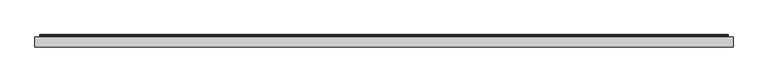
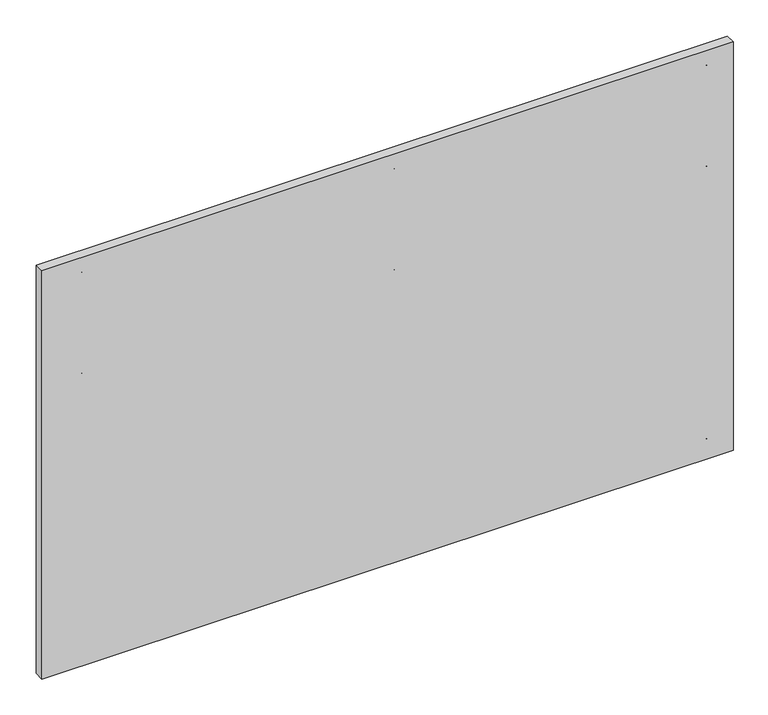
"""IFC4 building model written with IfcOpenShell, lengths in millimetres: furniture geometry, Geiger_GeigerOneCasegoods_WallTileTopTileorWallMountedFabric : RR Fabric 72Wx 1.25Dx 45H 2.5 yds."""

import ifcopenshell
import ifcopenshell.guid

model = None  # the IFC model being written
_history = None  # IfcOwnerHistory: only IFC2X3 demands one
_inside = {}  # id of a spatial element -> (the spatial element, [elements in it])
_under = {}  # id of a project, library or spatial element -> (it, [spatial elements below it])
_declared = {}  # id of a project -> (the project, [libraries it declares])
_typed = {}  # id of a type object -> (the type object, [elements of that type])
_made_of = {}  # id of a material, layer set ... -> (it, [elements and type objects made of it])


def new_model(schema):
    """Start an empty IFC model of exactly this schema.

    Asked for "IFC4X3", IfcOpenShell would pick the latest addendum, in which some entities
    have other attributes; the version numbers below select the first issue.
    IFC2X3 requires an IfcOwnerHistory on every rooted entity: one is made here for all.
    """
    global model, _history
    if schema == "IFC4X3":
        model = ifcopenshell.file(schema_version=(4, 3, 0, 0))
    else:
        model = ifcopenshell.file(schema=schema)
    _inside.clear()
    _under.clear()
    _declared.clear()
    _typed.clear()
    _made_of.clear()
    _history = None
    if model.schema == "IFC2X3":
        org = make("IfcOrganization", Name="unknown")
        user = make(
            "IfcPersonAndOrganization",
            ThePerson=make("IfcPerson", FamilyName="unknown"),
            TheOrganization=org,
        )
        app = make(
            "IfcApplication",
            ApplicationDeveloper=org,
            Version="unknown",
            ApplicationFullName="unknown",
            ApplicationIdentifier="unknown",
        )
        _history = make(
            "IfcOwnerHistory",
            OwningUser=user,
            OwningApplication=app,
            ChangeAction="ADDED",
            CreationDate=0,
        )
    return model


def make(cls, **values):
    """One entity of the class cls with the attributes given. An attribute that is None is left unset."""
    return model.create_entity(
        cls, **{name: value for name, value in values.items() if value is not None}
    )


def rooted(cls, **values):
    """An entity with a GlobalId (a new one), such as an element, a storey or a relation."""
    return make(cls, GlobalId=ifcopenshell.guid.new(), OwnerHistory=_history, **values)


def si_unit(unit_type, name, prefix=None):
    """IfcSIUnit, for example si_unit("LENGTHUNIT", "METRE", prefix="MILLI")."""
    return make("IfcSIUnit", UnitType=unit_type, Prefix=prefix, Name=name)


def assignment(units):
    """IfcUnitAssignment: the units of a project."""
    return None if units is None else make("IfcUnitAssignment", Units=units)


def point(xyz):
    """IfcCartesianPoint."""
    return None if xyz is None else make("IfcCartesianPoint", Coordinates=xyz)


def direction(xyz):
    """IfcDirection."""
    return None if xyz is None else make("IfcDirection", DirectionRatios=xyz)


def frame(location, z_axis=None, x_axis=None):
    """IfcAxis2Placement3D, a coordinate frame: its origin and axes. An axis left out is left unset."""
    return make(
        "IfcAxis2Placement3D",
        Location=point(location),
        Axis=direction(z_axis),
        RefDirection=direction(x_axis),
    )


def frame_2d(location, x_axis=None):
    """IfcAxis2Placement2D, a coordinate frame in the plane: its origin and x axis."""
    return make(
        "IfcAxis2Placement2D", Location=point(location), RefDirection=direction(x_axis)
    )


def origin():
    """The frame at (0, 0, 0) with its axes left unset."""
    return frame((0.0, 0.0, 0.0))


def origin_with_axes():
    """The frame at (0, 0, 0) with the z axis (0, 0, 1) and the x axis (1, 0, 0) written out."""
    return frame((0.0, 0.0, 0.0), z_axis=(0.0, 0.0, 1.0), x_axis=(1.0, 0.0, 0.0))


def place(relative_to, where):
    """IfcLocalPlacement: puts the frame where relative to a parent placement (None: the world)."""
    return make(
        "IfcLocalPlacement", PlacementRelTo=relative_to, RelativePlacement=where
    )


def context(
    kind, dimensions, precision=None, world=None, true_north=None, identifier=None
):
    """IfcGeometricRepresentationContext, for example the 3D "Model" context."""
    return make(
        "IfcGeometricRepresentationContext",
        ContextIdentifier=identifier,
        ContextType=kind,
        CoordinateSpaceDimension=dimensions,
        Precision=precision,
        WorldCoordinateSystem=world,
        TrueNorth=true_north,
    )


def project(units=None, contexts=None):
    """IfcProject with its units and contexts."""
    return rooted(
        "IfcProject",
        Name="project",
        RepresentationContexts=contexts,
        UnitsInContext=assignment(units),
    )


def spatial(cls, under=None, at=None, **own):
    """A site, building, storey or space (cls), placed at a placement, below another one or the project."""
    s = rooted(cls, ObjectPlacement=at, **own)
    if under is not None:
        _under.setdefault(under.id(), (under, []))[1].append(s)
    return s


def polyline(points):
    """IfcPolyline through the points."""
    return make("IfcPolyline", Points=[point(p) for p in points])


def circle_curve(where, radius):
    """IfcCircle in the frame where."""
    return make("IfcCircle", Position=where, Radius=radius)


def trimmed(basis, trim1, trim2, sense, master):
    """IfcTrimmedCurve: the piece of a basis curve between two trims."""
    return make(
        "IfcTrimmedCurve",
        BasisCurve=basis,
        Trim1=trim1,
        Trim2=trim2,
        SenseAgreement=sense,
        MasterRepresentation=master,
    )


def segment(curve, same_sense, transition):
    """IfcCompositeCurveSegment."""
    return make(
        "IfcCompositeCurveSegment",
        Transition=transition,
        SameSense=same_sense,
        ParentCurve=curve,
    )


def composite_curve(segments, self_intersect=None):
    """IfcCompositeCurve: segments joined end to end."""
    return make("IfcCompositeCurve", Segments=segments, SelfIntersect=self_intersect)


def outline(outer, holes=None, kind="AREA"):
    """IfcArbitraryClosedProfileDef: a profile drawn as a closed curve; with holes, ...WithVoids."""
    if holes is None:
        return make("IfcArbitraryClosedProfileDef", ProfileType=kind, OuterCurve=outer)
    return make(
        "IfcArbitraryProfileDefWithVoids",
        ProfileType=kind,
        OuterCurve=outer,
        InnerCurves=holes,
    )


def extrude(swept, where, along, depth):
    """IfcExtrudedAreaSolid: the profile swept, set in the frame where, extruded along a direction by depth."""
    return make(
        "IfcExtrudedAreaSolid",
        SweptArea=swept,
        Position=where,
        ExtrudedDirection=direction(along),
        Depth=depth,
    )


def shape(context_of_items, identifier, shape_type, items):
    """IfcShapeRepresentation: the items that make up one representation, for example the "Body"."""
    return make(
        "IfcShapeRepresentation",
        ContextOfItems=context_of_items,
        RepresentationIdentifier=identifier,
        RepresentationType=shape_type,
        Items=items,
    )


def source(mapping_origin, context_of_items, identifier, shape_type, items):
    """IfcRepresentationMap: a shape defined once, which mapped items show again and again."""
    return make(
        "IfcRepresentationMap",
        MappingOrigin=mapping_origin,
        MappedRepresentation=shape(context_of_items, identifier, shape_type, items),
    )


def transform(
    local_origin,
    x_axis=None,
    y_axis=None,
    z_axis=None,
    scale=None,
    scale2=None,
    scale3=None,
    uniform=True,
):
    """IfcCartesianTransformationOperator3D, or its non-uniform kind. x_axis, y_axis, z_axis: its Axis1, 2, 3."""
    if uniform:
        return make(
            "IfcCartesianTransformationOperator3D",
            Axis1=direction(x_axis),
            Axis2=direction(y_axis),
            LocalOrigin=point(local_origin),
            Scale=scale,
            Axis3=direction(z_axis),
        )
    return make(
        "IfcCartesianTransformationOperator3DnonUniform",
        Axis1=direction(x_axis),
        Axis2=direction(y_axis),
        LocalOrigin=point(local_origin),
        Scale=scale,
        Axis3=direction(z_axis),
        Scale2=scale2,
        Scale3=scale3,
    )


def mapped(mapping_source, mapping_target):
    """IfcMappedItem: shows the shape of a source again, moved by a transform."""
    return make(
        "IfcMappedItem", MappingSource=mapping_source, MappingTarget=mapping_target
    )


def made_of(thing, what):
    """Note that an element or type object is made of a material, layer set ...; save() writes the relation."""
    if what is not None:
        _made_of.setdefault(what.id(), (what, []))[1].append(thing)
    return thing


def element(
    cls,
    number,
    at=None,
    inside=None,
    cuts=None,
    type_object=None,
    material=None,
    context=None,
    identifier="Body",
    shape_type=None,
    held_by="IfcProductDefinitionShape",
    body=None,
    shapes=None,
    **own,
):
    """One element of the class cls, such as IfcWall. Its Tag is "e" and its number.

    at: its placement. inside: the storey or other place that contains it. cuts: it is an
    opening in that element (IfcRelVoidsElement). A single representation is given by context,
    identifier, shape_type and body (its items); several are given by shapes. held_by: the class
    of the entity that holds the representations. save() writes the other relations.
    """
    e = rooted(cls, Tag="e%d" % number, ObjectPlacement=at, **own)
    if body is not None:
        shapes = [shape(context, identifier, shape_type, body)]
    if shapes is not None:
        e.Representation = make(held_by, Representations=shapes)
    if inside is not None:
        _inside.setdefault(inside.id(), (inside, []))[1].append(e)
    if cuts is not None:
        rooted(
            "IfcRelVoidsElement", RelatingBuildingElement=cuts, RelatedOpeningElement=e
        )
    if type_object is not None:
        _typed.setdefault(type_object.id(), (type_object, []))[1].append(e)
    return made_of(e, material)


def aggregate(whole, parts):
    """IfcRelAggregates: a whole, such as a stair, and the parts it consists of."""
    return rooted("IfcRelAggregates", RelatingObject=whole, RelatedObjects=parts)


def save(model, path):
    """Write the relations noted so far, then the file.

    IfcRelAggregates (storeys below a building ...), IfcRelContainedInSpatialStructure (elements
    in a storey), IfcRelDefinesByType, IfcRelAssociatesMaterial and IfcRelDeclares: one each for
    every whole, place, type object, material and project.
    """
    for whole, parts in _under.values():
        aggregate(whole, parts)
    for where, things in _inside.values():
        rooted(
            "IfcRelContainedInSpatialStructure",
            RelatedElements=things,
            RelatingStructure=where,
        )
    for kind, things in _typed.values():
        rooted("IfcRelDefinesByType", RelatedObjects=things, RelatingType=kind)
    for what, things in _made_of.values():
        rooted("IfcRelAssociatesMaterial", RelatedObjects=things, RelatingMaterial=what)
    for by, libraries in _declared.values():
        rooted("IfcRelDeclares", RelatingContext=by, RelatedDefinitions=libraries)
    model.write(path)


def furniture_38d5736b(model_context):
    return source(origin(), model_context, "Body", "SweptSolid", [
        extrude(outline(composite_curve([segment(polyline([(3.5052, 32.2904), (3.5052, 39.2246), (2.6924, 40.012), (0.7874, 40.012), (0.0, 40.8248), (0.0, 72.524), (1.2954, 72.524), (2.8956, 70.9238), (2.8956, 46.3366), (3.7084, 45.5238), (5.588, 45.5238), (6.4008, 44.7364), (6.4008, 31.3252)]), True, "CONTINUOUS"), segment(trimmed(circle_curve(frame_2d((5.5973579, 31.3345579)), 0.8034966), [point((6.4008, 31.3252))], [point((5.0292, 30.7664))], False, "CARTESIAN"), True, "CONTINUOUS"), segment(polyline([(5.0292, 30.7664), (3.5052, 32.2904)]), True, "CONTINUOUS")], self_intersect=False)), frame((876.4, 0.0, 0.0), z_axis=(1.0, 0.0, 0.0), x_axis=(0.0, 1.0, 0.0)), (0.0, 0.0, 1.0), 76.0),
        extrude(outline(composite_curve([segment(polyline([(3.5052, 794.2834), (3.5052, 801.2176), (2.6924, 802.005), (0.7874, 802.005), (0.0, 802.8178), (0.0, 834.517), (1.2954, 834.517), (2.8956, 832.9168), (2.8956, 808.3296), (3.7084, 807.5168), (5.588, 807.5168), (6.4008, 806.7294), (6.4008, 793.3182)]), True, "CONTINUOUS"), segment(trimmed(circle_curve(frame_2d((5.5973579, 793.3275579)), 0.8034966), [point((6.4008, 793.3182))], [point((5.0292, 792.7594))], False, "CARTESIAN"), True, "CONTINUOUS"), segment(polyline([(5.0292, 792.7594), (3.5052, 794.2834)]), True, "CONTINUOUS")], self_intersect=False)), frame((876.4, 0.0, 0.0), z_axis=(1.0, 0.0, 0.0), x_axis=(0.0, 1.0, 0.0)), (0.0, 0.0, 1.0), 76.0),
        extrude(outline(composite_curve([segment(polyline([(3.5052, 1076.7864), (3.5052, 1083.7206), (2.6924, 1084.508), (0.7874, 1084.508), (0.0, 1085.3208), (0.0, 1117.02), (1.2954, 1117.02), (2.8956, 1115.4198), (2.8956, 1090.8326), (3.7084, 1090.0198), (5.588, 1090.0198), (6.4008, 1089.2324), (6.4008, 1075.8212)]), True, "CONTINUOUS"), segment(trimmed(circle_curve(frame_2d((5.5973579, 1075.8305579)), 0.8034966), [point((6.4008, 1075.8212))], [point((5.0292, 1075.2624))], False, "CARTESIAN"), True, "CONTINUOUS"), segment(polyline([(5.0292, 1075.2624), (3.5052, 1076.7864)]), True, "CONTINUOUS")], self_intersect=False)), frame((876.4, 0.0, 0.0), z_axis=(1.0, 0.0, 0.0), x_axis=(0.0, 1.0, 0.0)), (0.0, 0.0, 1.0), 76.0),
        extrude(outline(composite_curve([segment(polyline([(3.5052, 32.2904), (3.5052, 39.2246), (2.6924, 40.012), (0.7874, 40.012), (0.0, 40.8248), (0.0, 72.524), (1.2954, 72.524), (2.8956, 70.9238), (2.8956, 46.3366), (3.7084, 45.5238), (5.588, 45.5238), (6.4008, 44.7364), (6.4008, 31.3252)]), True, "CONTINUOUS"), segment(trimmed(circle_curve(frame_2d((5.5973579, 31.3345579)), 0.8034966), [point((6.4008, 31.3252))], [point((5.0292, 30.7664))], False, "CARTESIAN"), True, "CONTINUOUS"), segment(polyline([(5.0292, 30.7664), (3.5052, 32.2904)]), True, "CONTINUOUS")], self_intersect=False)), frame((876.4, 0.0, 0.0), z_axis=(1.0, 0.0, 0.0), x_axis=(0.0, 1.0, 0.0)), (0.0, 0.0, 1.0), 76.0),
        extrude(outline(composite_curve([segment(polyline([(3.5052, 794.2834), (3.5052, 801.2176), (2.6924, 802.005), (0.7874, 802.005), (0.0, 802.8178), (0.0, 834.517), (1.2954, 834.517), (2.8956, 832.9168), (2.8956, 808.3296), (3.7084, 807.5168), (5.588, 807.5168), (6.4008, 806.7294), (6.4008, 793.3182)]), True, "CONTINUOUS"), segment(trimmed(circle_curve(frame_2d((5.5973579, 793.3275579)), 0.8034966), [point((6.4008, 793.3182))], [point((5.0292, 792.7594))], False, "CARTESIAN"), True, "CONTINUOUS"), segment(polyline([(5.0292, 792.7594), (3.5052, 794.2834)]), True, "CONTINUOUS")], self_intersect=False)), frame((876.4, 0.0, 0.0), z_axis=(1.0, 0.0, 0.0), x_axis=(0.0, 1.0, 0.0)), (0.0, 0.0, 1.0), 76.0),
        extrude(outline(composite_curve([segment(polyline([(3.5052, 1076.7864), (3.5052, 1083.7206), (2.6924, 1084.508), (0.7874, 1084.508), (0.0, 1085.3208), (0.0, 1117.02), (1.2954, 1117.02), (2.8956, 1115.4198), (2.8956, 1090.8326), (3.7084, 1090.0198), (5.588, 1090.0198), (6.4008, 1089.2324), (6.4008, 1075.8212)]), True, "CONTINUOUS"), segment(trimmed(circle_curve(frame_2d((5.5973579, 1075.8305579)), 0.8034966), [point((6.4008, 1075.8212))], [point((5.0292, 1075.2624))], False, "CARTESIAN"), True, "CONTINUOUS"), segment(polyline([(5.0292, 1075.2624), (3.5052, 1076.7864)]), True, "CONTINUOUS")], self_intersect=False)), frame((876.4, 0.0, 0.0), z_axis=(1.0, 0.0, 0.0), x_axis=(0.0, 1.0, 0.0)), (0.0, 0.0, 1.0), 76.0),
        extrude(outline(composite_curve([segment(polyline([(2.8948, 38.2316), (2.8948, 31.2974), (3.7076, 30.51), (5.6126, 30.51), (6.4, 29.6972), (6.4, -2.002), (5.1046, -2.002), (3.5044, -0.4018), (3.5044, 24.1854), (2.6916, 24.9982), (0.812, 24.9982), (-0.0008, 25.7856), (-0.0008, 39.1968)]), True, "CONTINUOUS"), segment(trimmed(circle_curve(frame_2d((0.8026421, 39.1874421)), 0.8034966), [point((-0.0008, 39.1968))], [point((1.3708, 39.7556))], False, "CARTESIAN"), True, "CONTINUOUS"), segment(polyline([(1.3708, 39.7556), (2.8948, 38.2316)]), True, "CONTINUOUS")], self_intersect=False)), frame((12.5, 0.0, 0.0), z_axis=(1.0, 0.0, 0.0), x_axis=(0.0, 1.0, 0.0)), (0.0, 0.0, 1.0), 1803.8),
        extrude(outline(composite_curve([segment(polyline([(3.5052, 32.2904), (3.5052, 39.2246), (2.6924, 40.012), (0.7874, 40.012), (0.0, 40.8248), (0.0, 72.524), (1.2954, 72.524), (2.8956, 70.9238), (2.8956, 46.3366), (3.7084, 45.5238), (5.588, 45.5238), (6.4008, 44.7364), (6.4008, 31.3252)]), True, "CONTINUOUS"), segment(trimmed(circle_curve(frame_2d((5.5973579, 31.3345579)), 0.8034966), [point((6.4008, 31.3252))], [point((5.0292, 30.7664))], False, "CARTESIAN"), True, "CONTINUOUS"), segment(polyline([(5.0292, 30.7664), (3.5052, 32.2904)]), True, "CONTINUOUS")], self_intersect=False)), frame((50.0, 0.0, 0.0), z_axis=(1.0, 0.0, 0.0), x_axis=(0.0, 1.0, 0.0)), (0.0, 0.0, 1.0), 76.0),
        extrude(outline(composite_curve([segment(polyline([(2.8956, 46.3366), (3.7084, 45.5238), (5.588, 45.5238), (6.4008, 44.7364), (6.4008, 31.3252)]), True, "CONTINUOUS"), segment(trimmed(circle_curve(frame_2d((5.5973579, 31.3345579)), 0.8034966), [point((6.4008, 31.3252))], [point((5.0292, 30.7664))], False, "CARTESIAN"), True, "CONTINUOUS"), segment(polyline([(5.0292, 30.7664), (3.5052, 32.2904), (3.5052, 39.2246), (2.6924, 40.012), (0.7874, 40.012), (0.0, 40.8248), (0.0, 72.524), (1.2954, 72.524), (2.8956, 70.9238), (2.8956, 46.3366)]), True, "CONTINUOUS")], self_intersect=False)), frame((1702.8, 0.0, 0.0), z_axis=(1.0, 0.0, 0.0), x_axis=(0.0, 1.0, 0.0)), (0.0, 0.0, 1.0), 76.0),
        extrude(outline(composite_curve([segment(polyline([(3.5052, 794.2834), (3.5052, 801.2176), (2.6924, 802.005), (0.7874, 802.005), (0.0, 802.8178), (0.0, 834.517), (1.2954, 834.517), (2.8956, 832.9168), (2.8956, 808.3296), (3.7084, 807.5168), (5.588, 807.5168), (6.4008, 806.7294), (6.4008, 793.3182)]), True, "CONTINUOUS"), segment(trimmed(circle_curve(frame_2d((5.5973579, 793.3275579)), 0.8034966), [point((6.4008, 793.3182))], [point((5.0292, 792.7594))], False, "CARTESIAN"), True, "CONTINUOUS"), segment(polyline([(5.0292, 792.7594), (3.5052, 794.2834)]), True, "CONTINUOUS")], self_intersect=False)), frame((50.0, 0.0, 0.0), z_axis=(1.0, 0.0, 0.0), x_axis=(0.0, 1.0, 0.0)), (0.0, 0.0, 1.0), 76.0),
        extrude(outline(composite_curve([segment(polyline([(2.8956, 808.3296), (3.7084, 807.5168), (5.588, 807.5168), (6.4008, 806.7294), (6.4008, 793.3182)]), True, "CONTINUOUS"), segment(trimmed(circle_curve(frame_2d((5.5973579, 793.3275579)), 0.8034966), [point((6.4008, 793.3182))], [point((5.0292, 792.7594))], False, "CARTESIAN"), True, "CONTINUOUS"), segment(polyline([(5.0292, 792.7594), (3.5052, 794.2834), (3.5052, 801.2176), (2.6924, 802.005), (0.7874, 802.005), (0.0, 802.8178), (0.0, 834.517), (1.2954, 834.517), (2.8956, 832.9168), (2.8956, 808.3296)]), True, "CONTINUOUS")], self_intersect=False)), frame((1702.8, 0.0, 0.0), z_axis=(1.0, 0.0, 0.0), x_axis=(0.0, 1.0, 0.0)), (0.0, 0.0, 1.0), 76.0),
        extrude(outline(composite_curve([segment(polyline([(2.8948, 800.2246), (2.8948, 793.2904), (3.7076, 792.503), (5.6126, 792.503), (6.4, 791.6902), (6.4, 759.991), (5.1046, 759.991), (3.5044, 761.5912), (3.5044, 786.1784), (2.6916, 786.9912), (0.812, 786.9912), (-0.0008, 787.7786), (-0.0008, 801.1898)]), True, "CONTINUOUS"), segment(trimmed(circle_curve(frame_2d((0.8026421, 801.1804421)), 0.8034966), [point((-0.0008, 801.1898))], [point((1.3708, 801.7486))], False, "CARTESIAN"), True, "CONTINUOUS"), segment(polyline([(1.3708, 801.7486), (2.8948, 800.2246)]), True, "CONTINUOUS")], self_intersect=False)), frame((12.5, 0.0, 0.0), z_axis=(1.0, 0.0, 0.0), x_axis=(0.0, 1.0, 0.0)), (0.0, 0.0, 1.0), 1803.8),
        extrude(outline(composite_curve([segment(polyline([(2.8956, 1090.8326), (3.7084, 1090.0198), (5.588, 1090.0198), (6.4008, 1089.2324), (6.4008, 1075.8212)]), True, "CONTINUOUS"), segment(trimmed(circle_curve(frame_2d((5.5973579, 1075.8305579)), 0.8034966), [point((6.4008, 1075.8212))], [point((5.0292, 1075.2624))], False, "CARTESIAN"), True, "CONTINUOUS"), segment(polyline([(5.0292, 1075.2624), (3.5052, 1076.7864), (3.5052, 1083.7206), (2.6924, 1084.508), (0.7874, 1084.508), (0.0, 1085.3208), (0.0, 1117.02), (1.2954, 1117.02), (2.8956, 1115.4198), (2.8956, 1090.8326)]), True, "CONTINUOUS")], self_intersect=False)), frame((1702.8, 0.0, 0.0), z_axis=(1.0, 0.0, 0.0), x_axis=(0.0, 1.0, 0.0)), (0.0, 0.0, 1.0), 76.0),
        extrude(outline(composite_curve([segment(polyline([(3.5052, 1076.7864), (3.5052, 1083.7206), (2.6924, 1084.508), (0.7874, 1084.508), (0.0, 1085.3208), (0.0, 1117.02), (1.2954, 1117.02), (2.8956, 1115.4198), (2.8956, 1090.8326), (3.7084, 1090.0198), (5.588, 1090.0198), (6.4008, 1089.2324), (6.4008, 1075.8212)]), True, "CONTINUOUS"), segment(trimmed(circle_curve(frame_2d((5.5973579, 1075.8305579)), 0.8034966), [point((6.4008, 1075.8212))], [point((5.0292, 1075.2624))], False, "CARTESIAN"), True, "CONTINUOUS"), segment(polyline([(5.0292, 1075.2624), (3.5052, 1076.7864)]), True, "CONTINUOUS")], self_intersect=False)), frame((50.0, 0.0, 0.0), z_axis=(1.0, 0.0, 0.0), x_axis=(0.0, 1.0, 0.0)), (0.0, 0.0, 1.0), 76.0),
        extrude(outline(composite_curve([segment(polyline([(2.8948, 1082.7418), (2.8948, 1075.8076), (3.7076, 1075.0202), (5.6126, 1075.0202), (6.4, 1074.2074), (6.4, 1042.5082), (5.1046, 1042.5082), (3.5044, 1044.1084), (3.5044, 1068.6956), (2.6916, 1069.5084), (0.812, 1069.5084), (-0.0008, 1070.2958), (-0.0008, 1083.707)]), True, "CONTINUOUS"), segment(trimmed(circle_curve(frame_2d((0.8026421, 1083.6976421)), 0.8034966), [point((-0.0008, 1083.707))], [point((1.3708, 1084.2658))], False, "CARTESIAN"), True, "CONTINUOUS"), segment(polyline([(1.3708, 1084.2658), (2.8948, 1082.7418)]), True, "CONTINUOUS")], self_intersect=False)), frame((12.5, 0.0, 0.0), z_axis=(1.0, 0.0, 0.0), x_axis=(0.0, 1.0, 0.0)), (0.0, 0.0, 1.0), 1803.8),
        extrude(outline(polyline([(1828.8, 0.0), (1828.8, -26.0), (0.0, -26.0), (0.0, 0.0), (1828.8, 0.0)])), origin_with_axes(), (0.0, 0.0, 1.0), 1142.0),
    ])


if __name__ == "__main__":
    model = new_model("IFC4")
    model_context = context("Model", 3, world=origin())
    ifc_project = project(units=[si_unit("LENGTHUNIT", "METRE", prefix="MILLI")], contexts=[model_context])
    site = spatial("IfcSite", under=ifc_project)
    building = spatial("IfcBuilding", under=site)
    placement = place(None, origin())
    furniture_shape = furniture_38d5736b(model_context)
    element("IfcFurniture", 1, ObjectType="Geiger_GeigerOneCasegoods_WallTileTopTileorWallMountedFabric : RR Fabric 72Wx 1.25Dx 45H 2.5 yds", at=placement, inside=building, context=model_context, shape_type="MappedRepresentation", body=[
        mapped(furniture_shape, transform((0.0, 0.0, 0.0), x_axis=(1.0, 0.0, 0.0), y_axis=(0.0, 1.0, 0.0), z_axis=(0.0, 0.0, 1.0))),
    ])
    save(model, "model.ifc")
